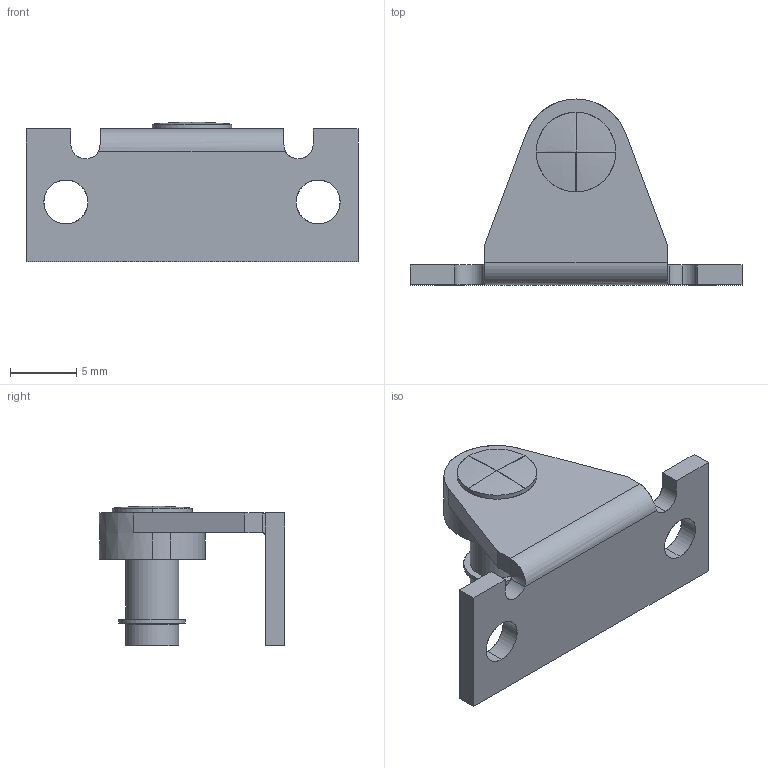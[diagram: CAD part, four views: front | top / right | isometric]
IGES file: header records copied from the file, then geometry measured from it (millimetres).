
Start section: SolidWorks IGES file using analytic representation for surfaces
Bounding box: 25 x 14 x 10.5 mm (x, y, z)
Surface area: 1067.6 mm2 (no closed solid volume)
Topology: 0 solids, 0 shells, 63 faces, 890 edges, 886 vertices
Faces by surface type: bspline 33, revolution 30
